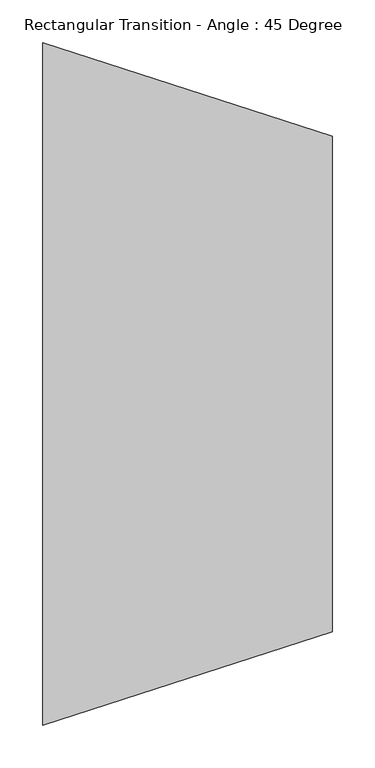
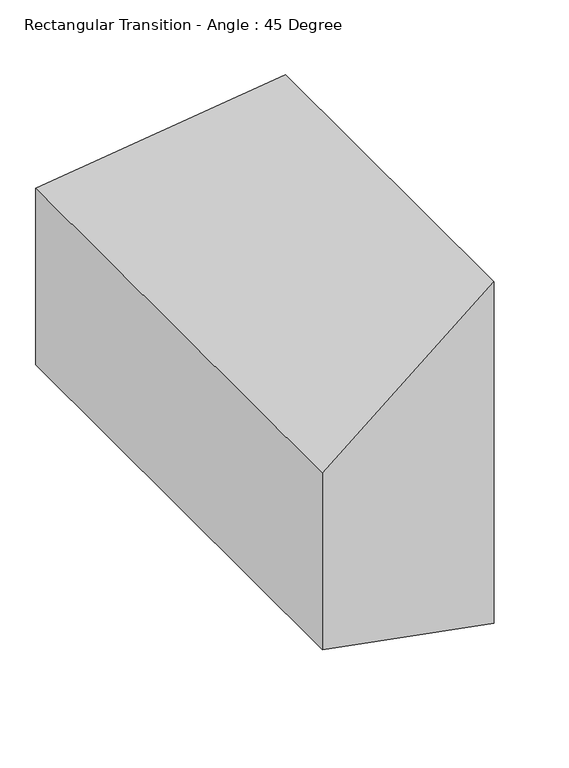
"""IFC4 building model written with IfcOpenShell, lengths in millimetres: duct fitting geometry, Rectangular Transition - Angle : 45 Degree."""

from ifc_helpers import new_model, si_unit, origin, place, context, project, spatial, faceted_brep, source, transform, mapped, element, save


def rectangular_transition_angle_45_degree_aa70833a(model_context):
    return source(origin(), model_context, "Body", "Brep", [
        faceted_brep([(339.2271832, -290.5125, 290.5125), (339.2271832, -290.5125, -290.5125), (339.2271832, 290.5125, -290.5125), (339.2271832, 290.5125, 290.5125), (0.0, -400.0, 150.0), (0.0, 400.0, 150.0), (0.0, 400.0, -150.0), (0.0, -400.0, -150.0)], [[[0, 1, 2, 3]], [[4, 5, 6, 7]], [[4, 7, 1, 0]], [[7, 6, 2, 1]], [[6, 5, 3, 2]], [[5, 4, 0, 3]]]),
    ])


if __name__ == "__main__":
    model = new_model("IFC4")
    model_context = context("Model", 3, world=origin())
    ifc_project = project(units=[si_unit("LENGTHUNIT", "METRE", prefix="MILLI")], contexts=[model_context])
    site = spatial("IfcSite", under=ifc_project)
    building = spatial("IfcBuilding", under=site)
    placement = place(None, origin())
    rectangular_transition_angle_45_degree_shape = rectangular_transition_angle_45_degree_aa70833a(model_context)
    element("IfcDuctFitting", 1, ObjectType="Rectangular Transition - Angle : 45 Degree", at=placement, inside=building, context=model_context, shape_type="MappedRepresentation", body=[
        mapped(rectangular_transition_angle_45_degree_shape, transform((0.0, 0.0, 0.0), x_axis=(1.0, 0.0, 0.0), y_axis=(0.0, 1.0, 0.0), z_axis=(0.0, 0.0, 1.0))),
    ])
    save(model, "model.ifc")
